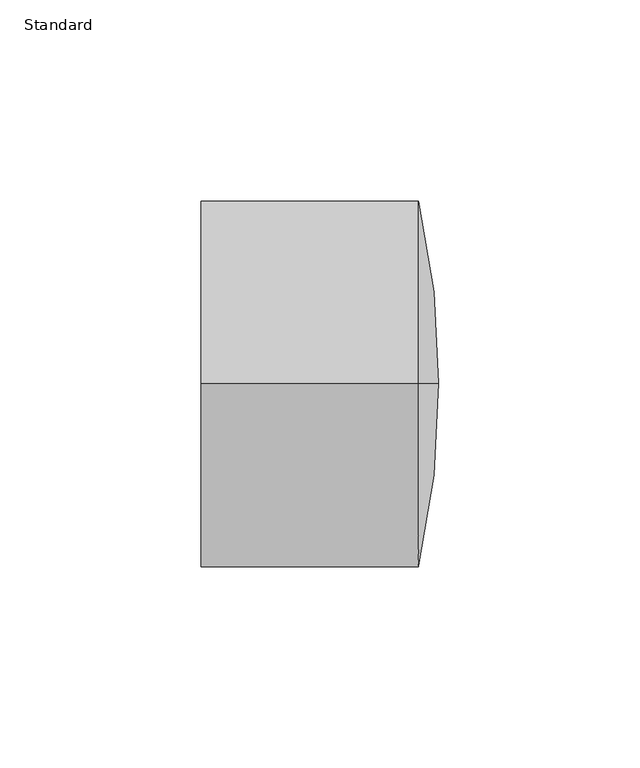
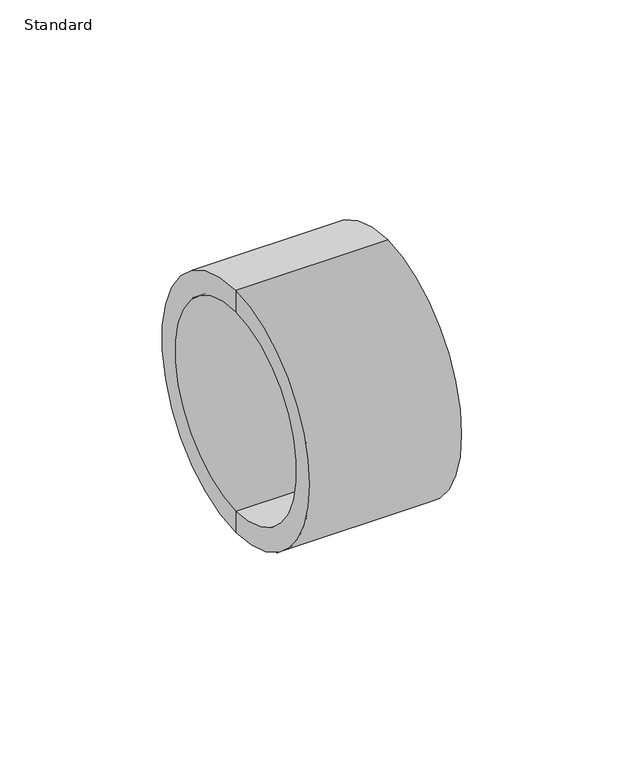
"""IFC4 building model written with IfcOpenShell, lengths in millimetres: pipe fitting geometry, Durapipe_PipeFitting_PVC_Cap : Standard."""

import ifcopenshell
import ifcopenshell.guid

model = None  # the IFC model being written
_history = None  # IfcOwnerHistory: only IFC2X3 demands one
_inside = {}  # id of a spatial element -> (the spatial element, [elements in it])
_under = {}  # id of a project, library or spatial element -> (it, [spatial elements below it])
_declared = {}  # id of a project -> (the project, [libraries it declares])
_typed = {}  # id of a type object -> (the type object, [elements of that type])
_made_of = {}  # id of a material, layer set ... -> (it, [elements and type objects made of it])


def new_model(schema):
    """Start an empty IFC model of exactly this schema.

    Asked for "IFC4X3", IfcOpenShell would pick the latest addendum, in which some entities
    have other attributes; the version numbers below select the first issue.
    IFC2X3 requires an IfcOwnerHistory on every rooted entity: one is made here for all.
    """
    global model, _history
    if schema == "IFC4X3":
        model = ifcopenshell.file(schema_version=(4, 3, 0, 0))
    else:
        model = ifcopenshell.file(schema=schema)
    _inside.clear()
    _under.clear()
    _declared.clear()
    _typed.clear()
    _made_of.clear()
    _history = None
    if model.schema == "IFC2X3":
        org = make("IfcOrganization", Name="unknown")
        user = make(
            "IfcPersonAndOrganization",
            ThePerson=make("IfcPerson", FamilyName="unknown"),
            TheOrganization=org,
        )
        app = make(
            "IfcApplication",
            ApplicationDeveloper=org,
            Version="unknown",
            ApplicationFullName="unknown",
            ApplicationIdentifier="unknown",
        )
        _history = make(
            "IfcOwnerHistory",
            OwningUser=user,
            OwningApplication=app,
            ChangeAction="ADDED",
            CreationDate=0,
        )
    return model


def make(cls, **values):
    """One entity of the class cls with the attributes given. An attribute that is None is left unset."""
    return model.create_entity(
        cls, **{name: value for name, value in values.items() if value is not None}
    )


def rooted(cls, **values):
    """An entity with a GlobalId (a new one), such as an element, a storey or a relation."""
    return make(cls, GlobalId=ifcopenshell.guid.new(), OwnerHistory=_history, **values)


def si_unit(unit_type, name, prefix=None):
    """IfcSIUnit, for example si_unit("LENGTHUNIT", "METRE", prefix="MILLI")."""
    return make("IfcSIUnit", UnitType=unit_type, Prefix=prefix, Name=name)


def assignment(units):
    """IfcUnitAssignment: the units of a project."""
    return None if units is None else make("IfcUnitAssignment", Units=units)


def point(xyz):
    """IfcCartesianPoint."""
    return None if xyz is None else make("IfcCartesianPoint", Coordinates=xyz)


def direction(xyz):
    """IfcDirection."""
    return None if xyz is None else make("IfcDirection", DirectionRatios=xyz)


def frame(location, z_axis=None, x_axis=None):
    """IfcAxis2Placement3D, a coordinate frame: its origin and axes. An axis left out is left unset."""
    return make(
        "IfcAxis2Placement3D",
        Location=point(location),
        Axis=direction(z_axis),
        RefDirection=direction(x_axis),
    )


def origin():
    """The frame at (0, 0, 0) with its axes left unset."""
    return frame((0.0, 0.0, 0.0))


def place(relative_to, where):
    """IfcLocalPlacement: puts the frame where relative to a parent placement (None: the world)."""
    return make(
        "IfcLocalPlacement", PlacementRelTo=relative_to, RelativePlacement=where
    )


def context(
    kind, dimensions, precision=None, world=None, true_north=None, identifier=None
):
    """IfcGeometricRepresentationContext, for example the 3D "Model" context."""
    return make(
        "IfcGeometricRepresentationContext",
        ContextIdentifier=identifier,
        ContextType=kind,
        CoordinateSpaceDimension=dimensions,
        Precision=precision,
        WorldCoordinateSystem=world,
        TrueNorth=true_north,
    )


def project(units=None, contexts=None):
    """IfcProject with its units and contexts."""
    return rooted(
        "IfcProject",
        Name="project",
        RepresentationContexts=contexts,
        UnitsInContext=assignment(units),
    )


def spatial(cls, under=None, at=None, **own):
    """A site, building, storey or space (cls), placed at a placement, below another one or the project."""
    s = rooted(cls, ObjectPlacement=at, **own)
    if under is not None:
        _under.setdefault(under.id(), (under, []))[1].append(s)
    return s


def polyline(points):
    """IfcPolyline through the points."""
    return make("IfcPolyline", Points=[point(p) for p in points])


def circle_curve(where, radius):
    """IfcCircle in the frame where."""
    return make("IfcCircle", Position=where, Radius=radius)


def ellipse_curve(where, semi_axis1, semi_axis2):
    """IfcEllipse in the frame where."""
    return make(
        "IfcEllipse", Position=where, SemiAxis1=semi_axis1, SemiAxis2=semi_axis2
    )


def trimmed(basis, trim1, trim2, sense, master):
    """IfcTrimmedCurve: the piece of a basis curve between two trims."""
    return make(
        "IfcTrimmedCurve",
        BasisCurve=basis,
        Trim1=trim1,
        Trim2=trim2,
        SenseAgreement=sense,
        MasterRepresentation=master,
    )


def shape(context_of_items, identifier, shape_type, items):
    """IfcShapeRepresentation: the items that make up one representation, for example the "Body"."""
    return make(
        "IfcShapeRepresentation",
        ContextOfItems=context_of_items,
        RepresentationIdentifier=identifier,
        RepresentationType=shape_type,
        Items=items,
    )


def source(mapping_origin, context_of_items, identifier, shape_type, items):
    """IfcRepresentationMap: a shape defined once, which mapped items show again and again."""
    return make(
        "IfcRepresentationMap",
        MappingOrigin=mapping_origin,
        MappedRepresentation=shape(context_of_items, identifier, shape_type, items),
    )


def transform(
    local_origin,
    x_axis=None,
    y_axis=None,
    z_axis=None,
    scale=None,
    scale2=None,
    scale3=None,
    uniform=True,
):
    """IfcCartesianTransformationOperator3D, or its non-uniform kind. x_axis, y_axis, z_axis: its Axis1, 2, 3."""
    if uniform:
        return make(
            "IfcCartesianTransformationOperator3D",
            Axis1=direction(x_axis),
            Axis2=direction(y_axis),
            LocalOrigin=point(local_origin),
            Scale=scale,
            Axis3=direction(z_axis),
        )
    return make(
        "IfcCartesianTransformationOperator3DnonUniform",
        Axis1=direction(x_axis),
        Axis2=direction(y_axis),
        LocalOrigin=point(local_origin),
        Scale=scale,
        Axis3=direction(z_axis),
        Scale2=scale2,
        Scale3=scale3,
    )


def mapped(mapping_source, mapping_target):
    """IfcMappedItem: shows the shape of a source again, moved by a transform."""
    return make(
        "IfcMappedItem", MappingSource=mapping_source, MappingTarget=mapping_target
    )


def made_of(thing, what):
    """Note that an element or type object is made of a material, layer set ...; save() writes the relation."""
    if what is not None:
        _made_of.setdefault(what.id(), (what, []))[1].append(thing)
    return thing


def element(
    cls,
    number,
    at=None,
    inside=None,
    cuts=None,
    type_object=None,
    material=None,
    context=None,
    identifier="Body",
    shape_type=None,
    held_by="IfcProductDefinitionShape",
    body=None,
    shapes=None,
    **own,
):
    """One element of the class cls, such as IfcWall. Its Tag is "e" and its number.

    at: its placement. inside: the storey or other place that contains it. cuts: it is an
    opening in that element (IfcRelVoidsElement). A single representation is given by context,
    identifier, shape_type and body (its items); several are given by shapes. held_by: the class
    of the entity that holds the representations. save() writes the other relations.
    """
    e = rooted(cls, Tag="e%d" % number, ObjectPlacement=at, **own)
    if body is not None:
        shapes = [shape(context, identifier, shape_type, body)]
    if shapes is not None:
        e.Representation = make(held_by, Representations=shapes)
    if inside is not None:
        _inside.setdefault(inside.id(), (inside, []))[1].append(e)
    if cuts is not None:
        rooted(
            "IfcRelVoidsElement", RelatingBuildingElement=cuts, RelatedOpeningElement=e
        )
    if type_object is not None:
        _typed.setdefault(type_object.id(), (type_object, []))[1].append(e)
    return made_of(e, material)


def aggregate(whole, parts):
    """IfcRelAggregates: a whole, such as a stair, and the parts it consists of."""
    return rooted("IfcRelAggregates", RelatingObject=whole, RelatedObjects=parts)


def save(model, path):
    """Write the relations noted so far, then the file.

    IfcRelAggregates (storeys below a building ...), IfcRelContainedInSpatialStructure (elements
    in a storey), IfcRelDefinesByType, IfcRelAssociatesMaterial and IfcRelDeclares: one each for
    every whole, place, type object, material and project.
    """
    for whole, parts in _under.values():
        aggregate(whole, parts)
    for where, things in _inside.values():
        rooted(
            "IfcRelContainedInSpatialStructure",
            RelatedElements=things,
            RelatingStructure=where,
        )
    for kind, things in _typed.values():
        rooted("IfcRelDefinesByType", RelatedObjects=things, RelatingType=kind)
    for what, things in _made_of.values():
        rooted("IfcRelAssociatesMaterial", RelatedObjects=things, RelatingMaterial=what)
    for by, libraries in _declared.values():
        rooted("IfcRelDeclares", RelatingContext=by, RelatedDefinitions=libraries)
    model.write(path)


def plane_surface(at):
    """IfcPlane: the flat surface through the origin of the frame at, square to its z axis."""
    return make("IfcPlane", Position=at)


def cylinder_surface(at, radius):
    """IfcCylindricalSurface: all points at the distance radius from the z axis of the frame at."""
    return make("IfcCylindricalSurface", Position=at, Radius=radius)


def revolved_surface(curve, axis_point, axis_direction):
    """IfcSurfaceOfRevolution: the curve turned about the line through axis_point along axis_direction."""
    return make(
        "IfcSurfaceOfRevolution",
        SweptCurve=make("IfcArbitraryOpenProfileDef", ProfileType="CURVE", Curve=curve),
        AxisPosition=make("IfcAxis1Placement", Location=point(axis_point), Axis=direction(axis_direction)),
    )


def advanced_brep(points, edges, surfaces, faces):
    """IfcAdvancedBrep: a solid bounded by faces that lie on surfaces and meet in shared edges.

    An edge is (start, end): straight between two places in points (the first is 0);
    or (start, end, curve); or (start, end, curve, False) where it runs against its curve.
    A face is (place in surfaces, loops), or (place, loops, False) where it looks against
    its surface's normal. A loop lists edges by number (the first is 1), with a minus sign
    where the edge is run from its end to its start. The first loop is the outer one.
    """
    corners = [point(p) for p in points]
    vertices = [make("IfcVertexPoint", VertexGeometry=c) for c in corners]
    made = []
    for start, end, *more in edges:
        made.append(
            make(
                "IfcEdgeCurve",
                EdgeStart=vertices[start],
                EdgeEnd=vertices[end],
                EdgeGeometry=more[0] if more else make("IfcPolyline", Points=[corners[start], corners[end]]),
                SameSense=more[1] if len(more) > 1 else True,
            )
        )
    hull = []
    for where, loops, *sense in faces:
        bounds = []
        for j, loop in enumerate(loops):
            ring = [make("IfcOrientedEdge", EdgeElement=made[abs(k) - 1], Orientation=k > 0) for k in loop]
            bounds.append(
                make(
                    "IfcFaceOuterBound" if j == 0 else "IfcFaceBound",
                    Bound=make("IfcEdgeLoop", EdgeList=ring),
                    Orientation=True,
                )
            )
        hull.append(make("IfcAdvancedFace", Bounds=bounds, FaceSurface=surfaces[where], SameSense=sense[0] if sense else True))
    return make("IfcAdvancedBrep", Outer=make("IfcClosedShell", CfsFaces=hull))


def standard_23844ad6(model_context):
    return source(origin(), model_context, "Body", "AdvancedBrep", [
        advanced_brep(
        [(0.0, 0.0, 0.0), (0.0, 0.0, 37.5), (0.0, 0.0, -37.5), (10.0, 0.0, -45.5), (10.0, 0.0, 45.5), (15.0, 0.0, 0.0), (-44.0, 0.0, -45.5), (-44.0, 0.0, 45.5), (-44.0, 0.0, -37.5), (-44.0, 0.0, 37.5)],
        [
            (0, 1),
            (1, 2, circle_curve(frame((0.0, 0.0, 0.0), z_axis=(-1.0, 0.0, 0.0), x_axis=(0.0, 0.0, 1.0)), 37.5)),
            (2, 0),
            (2, 1, circle_curve(frame((0.0, 0.0, 0.0), z_axis=(-1.0, 0.0, 0.0), x_axis=(0.0, 0.0, 1.0)), 37.5)),
            (3, 4, circle_curve(frame((10.0, 0.0, 0.0), z_axis=(1.0, 0.0, 0.0), x_axis=(0.0, 0.0, 1.0)), 45.5)),
            (4, 5, circle_curve(frame((-184.2927157, 0.0, 1.1244268), z_axis=(0.0, 1.0, 0.0), x_axis=(1.0, 0.0, 0.0)), 199.2958877)),
            (5, 3, circle_curve(frame((-184.2927157, 0.0, -1.1244268), z_axis=(0.0, 1.0, 0.0), x_axis=(1.0, 0.0, 0.0)), 199.2958877)),
            (4, 3, circle_curve(frame((10.0, 0.0, 0.0), z_axis=(1.0, 0.0, 0.0), x_axis=(0.0, 0.0, 1.0)), 45.5)),
            (6, 7, circle_curve(frame((-44.0, 0.0, 0.0), z_axis=(1.0, 0.0, 0.0), x_axis=(0.0, 0.0, 1.0)), 45.5)),
            (7, 4),
            (3, 6),
            (7, 6, circle_curve(frame((-44.0, 0.0, 0.0), z_axis=(1.0, 0.0, 0.0), x_axis=(0.0, 0.0, 1.0)), 45.5)),
            (8, 9, circle_curve(frame((-44.0, 0.0, 0.0), z_axis=(1.0, 0.0, 0.0), x_axis=(0.0, 0.0, 1.0)), 37.5)),
            (9, 7),
            (6, 8),
            (9, 8, circle_curve(frame((-44.0, 0.0, 0.0), z_axis=(1.0, 0.0, 0.0), x_axis=(0.0, 0.0, 1.0)), 37.5)),
            (1, 9),
            (8, 2),
        ],
        [
            plane_surface(frame((0.0, 0.0, 0.0), z_axis=(-1.0, 0.0, 0.0), x_axis=(0.0, 0.0, 1.0))),
            revolved_surface(trimmed(ellipse_curve(frame((-184.2927157, 0.0, 1.1244268), z_axis=(0.0, -1.0, 0.0), x_axis=(1.0, 0.0, 0.0)), 199.2958877, 199.2958877), [point((15.0, 0.0, 0.0))], [point((10.0, 0.0, 45.5))], True, "CARTESIAN"), (-1543.1299635, 0.0, 0.0), (-1.0, 0.0, 0.0)),
            cylinder_surface(frame((-1543.1299635, 0.0, 0.0), z_axis=(-1.0, 0.0, 0.0), x_axis=(0.0, 0.0, 1.0)), 45.5),
            plane_surface(frame((-44.0, 0.0, 0.0), z_axis=(-1.0, 0.0, 0.0), x_axis=(0.0, 0.0, 1.0))),
            revolved_surface(polyline([(-44.0, 0.0, 37.5), (0.0, 0.0, 37.5)]), (-1543.1299635, 0.0, 0.0), (-1.0, 0.0, 0.0)),
        ],
        [
            (0, [[1, 2, 3]]),
            (0, [[-3, 4, -1]]),
            (1, [[5, 6, 7]]),
            (1, [[8, -7, -6]]),
            (2, [[9, 10, -5, 11]]),
            (2, [[12, -11, -8, -10]]),
            (3, [[13, 14, -9, 15]]),
            (3, [[16, -15, -12, -14]]),
            (4, [[-2, 17, -13, 18]]),
            (4, [[-4, -18, -16, -17]]),
        ],
    ),
    ])


if __name__ == "__main__":
    model = new_model("IFC4")
    model_context = context("Model", 3, world=origin())
    ifc_project = project(units=[si_unit("LENGTHUNIT", "METRE", prefix="MILLI")], contexts=[model_context])
    site = spatial("IfcSite", under=ifc_project)
    building = spatial("IfcBuilding", under=site)
    placement = place(None, origin())
    standard_shape = standard_23844ad6(model_context)
    element("IfcPipeFitting", 1, ObjectType="Durapipe_PipeFitting_PVC_Cap : Standard", at=placement, inside=building, context=model_context, shape_type="MappedRepresentation", body=[
        mapped(standard_shape, transform((0.0, 0.0, 0.0), x_axis=(1.0, 0.0, 0.0), y_axis=(0.0, 1.0, 0.0), z_axis=(0.0, 0.0, 1.0))),
    ])
    save(model, "model.ifc")
